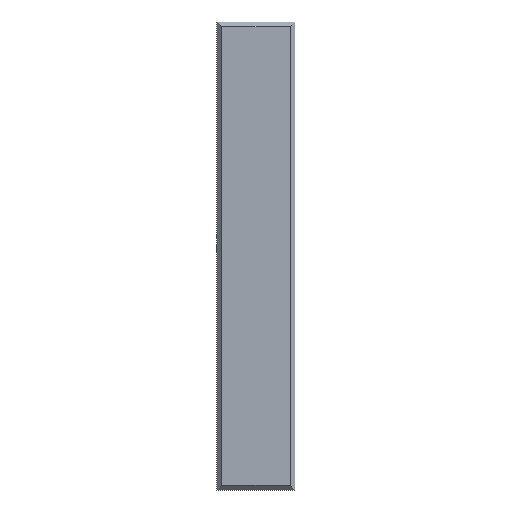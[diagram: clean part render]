
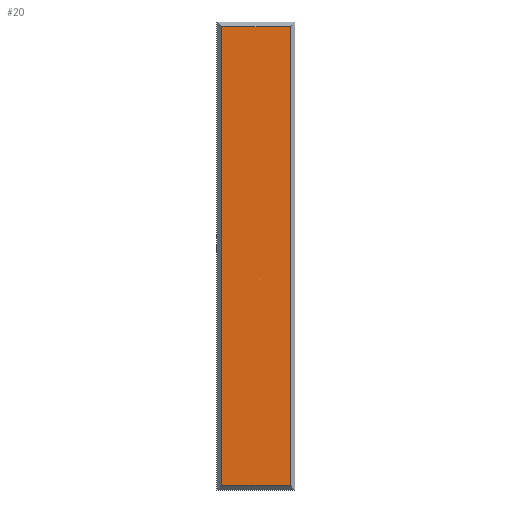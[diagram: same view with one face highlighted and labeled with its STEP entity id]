
A CAD part, front view. The second image highlights one B-rep face of the part: STEP entity #20.
In plain terms, the highlighted planar face has unit normal (0, -1, 0).
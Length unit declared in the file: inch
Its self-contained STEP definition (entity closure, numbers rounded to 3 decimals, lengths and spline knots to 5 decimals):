
#20=ADVANCED_FACE('',(#30),#142,.T.);
#30=FACE_OUTER_BOUND('',#40,.T.);
#40=EDGE_LOOP('',(#68,#69,#70,#71));
#68=ORIENTED_EDGE('',*,*,#84,.F.);
#69=ORIENTED_EDGE('',*,*,#95,.F.);
#70=ORIENTED_EDGE('',*,*,#91,.F.);
#71=ORIENTED_EDGE('',*,*,#88,.F.);
#84=EDGE_CURVE('',#124,#125,#104,.T.);
#88=EDGE_CURVE('',#125,#128,#108,.T.);
#91=EDGE_CURVE('',#128,#130,#111,.T.);
#95=EDGE_CURVE('',#130,#124,#115,.T.);
#104=B_SPLINE_CURVE_WITH_KNOTS('',1,(#285,#286),.UNSPECIFIED.,.F.,.F.,(2,
2),(0.,23.5),.UNSPECIFIED.);
#108=B_SPLINE_CURVE_WITH_KNOTS('',1,(#293,#294),.UNSPECIFIED.,.F.,.F.,(2,
2),(0.,3.5),.UNSPECIFIED.);
#111=B_SPLINE_CURVE_WITH_KNOTS('',1,(#299,#300),.UNSPECIFIED.,.F.,.F.,(2,
2),(0.,23.5),.UNSPECIFIED.);
#115=B_SPLINE_CURVE_WITH_KNOTS('',1,(#307,#308),.UNSPECIFIED.,.F.,.F.,(2,
2),(0.,3.5),.UNSPECIFIED.);
#124=VERTEX_POINT('',#273);
#125=VERTEX_POINT('',#274);
#128=VERTEX_POINT('',#277);
#130=VERTEX_POINT('',#279);
#142=PLANE('',#243);
#243=AXIS2_PLACEMENT_3D('',#269,#256,$);
#256=DIRECTION('',(0.,-1.,0.));
#269=CARTESIAN_POINT('',(-2.10472,-0.5,14.10472));
#273=CARTESIAN_POINT('',(-1.75,-0.5,-11.75));
#274=CARTESIAN_POINT('',(-1.75,-0.5,11.75));
#277=CARTESIAN_POINT('',(1.75,-0.5,11.75));
#279=CARTESIAN_POINT('',(1.75,-0.5,-11.75));
#285=CARTESIAN_POINT('',(-1.75,-0.5,-11.75));
#286=CARTESIAN_POINT('',(-1.75,-0.5,11.75));
#293=CARTESIAN_POINT('',(-1.75,-0.5,11.75));
#294=CARTESIAN_POINT('',(1.75,-0.5,11.75));
#299=CARTESIAN_POINT('',(1.75,-0.5,11.75));
#300=CARTESIAN_POINT('',(1.75,-0.5,-11.75));
#307=CARTESIAN_POINT('',(1.75,-0.5,-11.75));
#308=CARTESIAN_POINT('',(-1.75,-0.5,-11.75));
